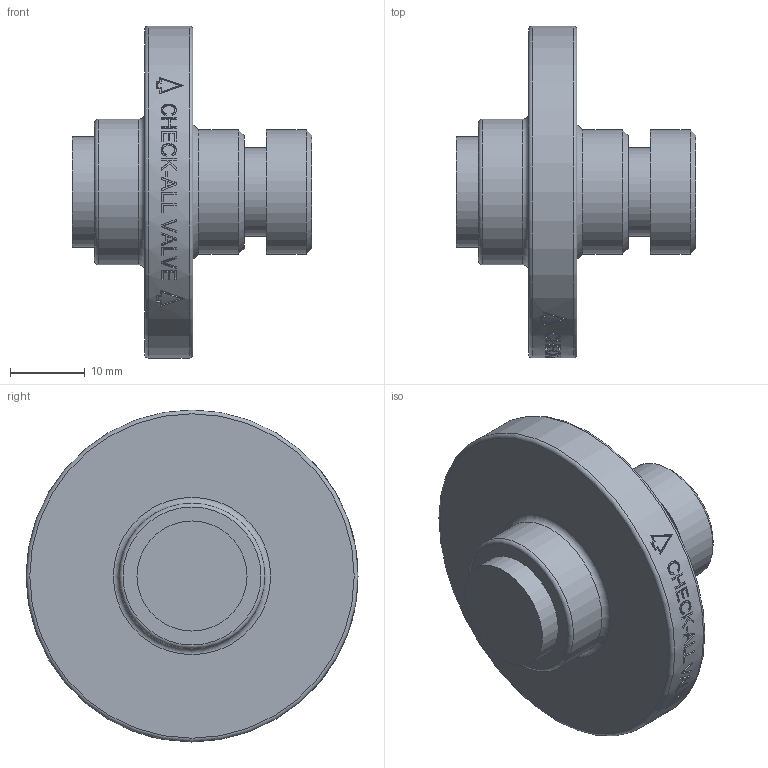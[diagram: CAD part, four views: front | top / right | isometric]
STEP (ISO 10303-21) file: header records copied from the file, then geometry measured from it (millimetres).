
FILE_DESCRIPTION( ( 'Unknown' ), '1' );
FILE_NAME( 'Y:/ENGR/3D Solid Edge Models/F1/F1 STEP/F1F.stp', 'Unknown', ( 'Unknown' ), ( 'Unknown' ), 'PSStep 14.0', 'Unknown', ' ' );
FILE_SCHEMA( ( 'AUTOMOTIVE_DESIGN { 1 0 10303 214 1 1 1 1 }' ) );
Length unit declared in the file: millimetre
Products named in the file (1): 1
Bounding box: 32.11 x 44.45 x 44.45 mm (x, y, z)
Volume: 15673.4 mm3; surface area: 5441 mm2
Topology: 1 solids, 1 shells, 212 faces, 539 edges, 357 vertices
Faces by surface type: plane 133, bspline 43, cylinder 29, torus 4, cone 3
Full cylindrical faces by diameter (mm): 11.786 x1, 14.732 x1, 16.637 x2, 19.482 x1, 44.45 x1
Entity records: 8937 total; most frequent: CARTESIAN_POINT 3263, ORIENTED_EDGE 1052, EDGE_CURVE 526, B_SPLINE_CURVE_WITH_KNOTS 507, DIRECTION 378, VERTEX_POINT 357, EDGE_LOOP 253, FACE_OUTER_BOUND 222
